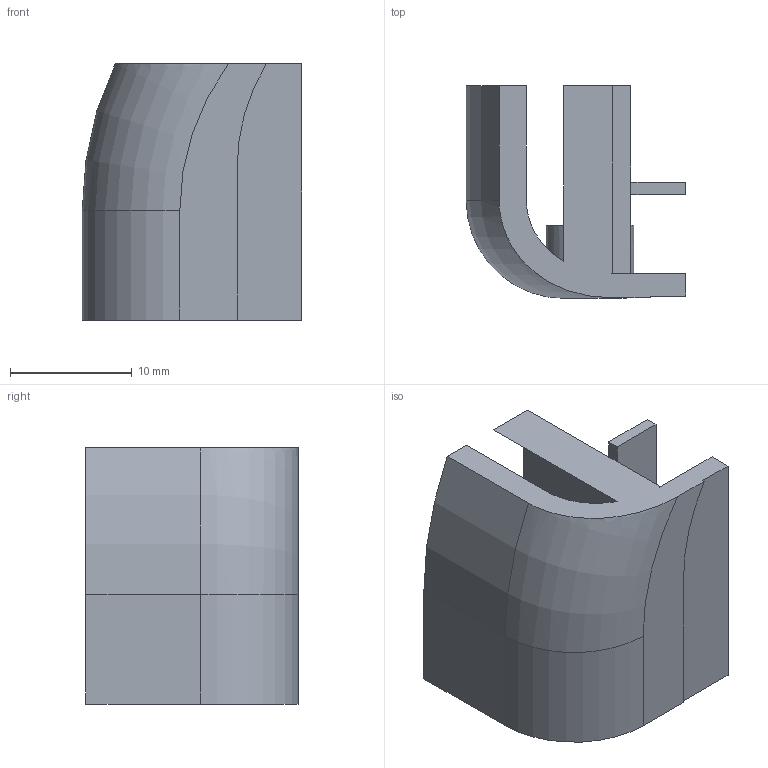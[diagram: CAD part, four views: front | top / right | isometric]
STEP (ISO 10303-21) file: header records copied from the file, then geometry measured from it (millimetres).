
FILE_DESCRIPTION(('Open CASCADE Model'),'2;1');
FILE_NAME('front_chassis_PA12','2026-09-06T11:35:16',('Author'),( 'Open CASCADE'),'Open CASCADE STEP processor 7.8','build123d', 'Unknown');
FILE_SCHEMA(('AUTOMOTIVE_DESIGN { 1 0 10303 214 1 1 1 1 }'));
Length unit declared in the file: millimetre
Products named in the file (1): front_chassis_PA12
Bounding box: 18 x 17.4 x 21 mm (x, y, z)
Volume: 1856.8 mm3; surface area: 2395.7 mm2
Topology: 1 solids, 1 shells, 40 faces, 102 edges, 66 vertices
Faces by surface type: plane 30, cylinder 8, torus 2
Full cylindrical faces by diameter (mm): 3.2 x1
Entity records: 3035 total; most frequent: CARTESIAN_POINT 1095, DIRECTION 317, ORIENTED_EDGE 204, PCURVE 204, DEFINITIONAL_REPRESENTATION 204, LINE 191, VECTOR 191, EDGE_CURVE 102
